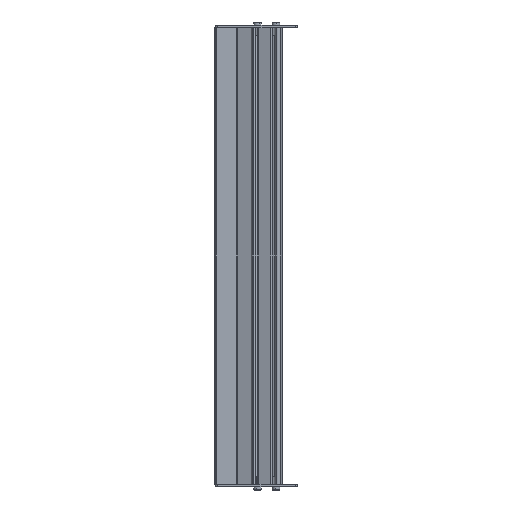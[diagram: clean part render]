
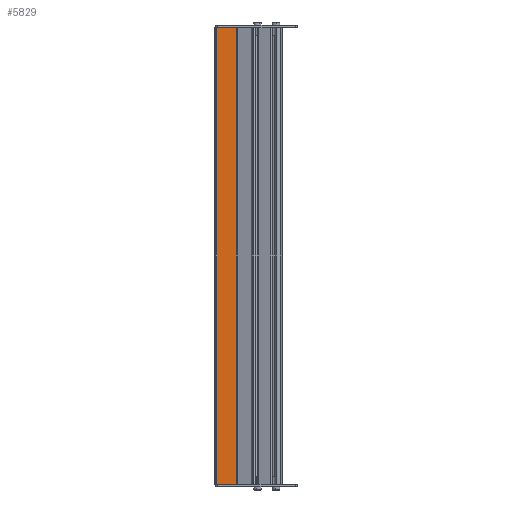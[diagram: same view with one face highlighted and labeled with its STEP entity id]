
A CAD part, left-side view. The second image highlights one B-rep face of the part: STEP entity #5829.
In plain terms, the highlighted planar face has unit normal (-1, 0, 0) as drawn and (1, 0, 0) by its records, which use the part's own axes.
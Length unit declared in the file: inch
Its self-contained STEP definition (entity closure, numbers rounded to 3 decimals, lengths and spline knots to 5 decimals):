
#5044=DIRECTION('',(0.,0.,1.));
#5045=VECTOR('',#5044,20.236);
#5046=CARTESIAN_POINT('',(0.048,0.01693,-10.118));
#5047=LINE('',#5046,#5045);
#5074=DIRECTION('',(0.,-1.,0.));
#5075=VECTOR('',#5074,0.88707);
#5076=CARTESIAN_POINT('',(0.048,0.904,-10.118));
#5077=LINE('',#5076,#5075);
#5078=DIRECTION('',(0.,-1.,0.));
#5079=VECTOR('',#5078,0.88707);
#5080=CARTESIAN_POINT('',(0.048,0.904,10.118));
#5081=LINE('',#5080,#5079);
#5082=DIRECTION('',(0.,0.,-1.));
#5083=VECTOR('',#5082,20.236);
#5084=CARTESIAN_POINT('',(0.048,0.904,10.118));
#5085=LINE('',#5084,#5083);
#5342=CARTESIAN_POINT('',(0.048,0.01693,-10.118));
#5344=VERTEX_POINT('',#5342);
#5350=CARTESIAN_POINT('',(0.048,0.01693,10.118));
#5352=VERTEX_POINT('',#5350);
#5364=CARTESIAN_POINT('',(0.048,0.904,-10.118));
#5365=VERTEX_POINT('',#5364);
#5462=CARTESIAN_POINT('',(0.048,0.904,10.118));
#5464=VERTEX_POINT('',#5462);
#5817=CARTESIAN_POINT('',(0.048,0.,10.118));
#5818=DIRECTION('',(-1.,0.,0.));
#5819=DIRECTION('',(0.,0.,1.));
#5820=AXIS2_PLACEMENT_3D('',#5817,#5818,#5819);
#5821=PLANE('',#5820);
#5822=ORIENTED_EDGE('',*,*,#5810,.T.);
#5823=ORIENTED_EDGE('',*,*,#5753,.T.);
#5824=ORIENTED_EDGE('',*,*,#5782,.F.);
#5826=ORIENTED_EDGE('',*,*,#5825,.T.);
#5827=EDGE_LOOP('',(#5822,#5823,#5824,#5826));
#5828=FACE_OUTER_BOUND('',#5827,.F.);
#5753=EDGE_CURVE('',#5344,#5352,#5047,.T.);
#5782=EDGE_CURVE('',#5464,#5352,#5081,.T.);
#5810=EDGE_CURVE('',#5365,#5344,#5077,.T.);
#5825=EDGE_CURVE('',#5464,#5365,#5085,.T.);
#5829=ADVANCED_FACE('',(#5828),#5821,.F.);
